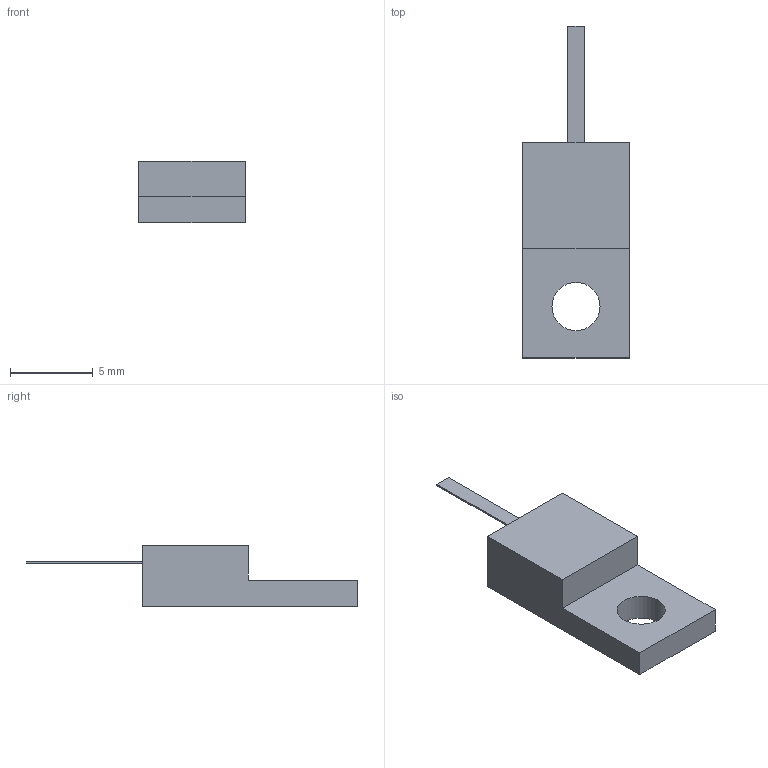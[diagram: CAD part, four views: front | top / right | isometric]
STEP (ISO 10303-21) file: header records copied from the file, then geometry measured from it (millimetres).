
FILE_DESCRIPTION(('STEP AP203'), '1');
FILE_NAME('P1-170-60-10', '', ('UNSPECIFIED'), ('UNSPECIFIED'), 'ASCON STEP Converter 1.6', 'ASCON Math Kernel', '');
FILE_SCHEMA(('CONFIG_CONTROL_DESIGN'));
Length unit declared in the file: millimetre
Bounding box: 6.4 x 20 x 3.7 mm (x, y, z)
Volume: 209.3 mm3; surface area: 299 mm2
Topology: 1 solids, 1 shells, 14 faces, 33 edges, 22 vertices
Faces by surface type: plane 13, cylinder 1
Full cylindrical faces by diameter (mm): 2.9 x1
Entity records: 554 total; most frequent: CARTESIAN_POINT 69, DIRECTION 64, ORIENTED_EDGE 64, EDGE_CURVE 32, LINE 30, VECTOR 30, VERTEX_POINT 22, EDGE_LOOP 18
